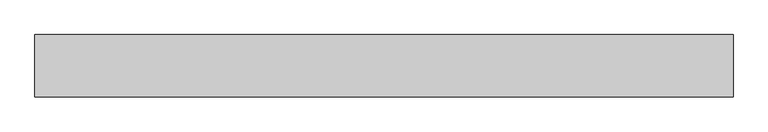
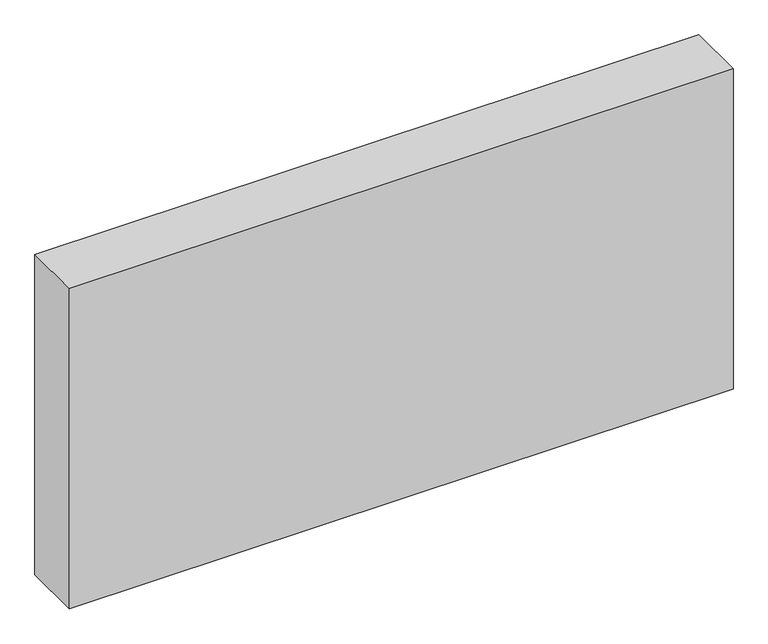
"""IFC4 building model written with IfcOpenShell, lengths in millimetres: plate geometry, Пустая системная панель : Пустая системная панель."""

from ifc_helpers import new_model, si_unit, origin, origin_with_axes, place, context, project, spatial, polyline, outline, extrude, source, transform, mapped, element, save


def plate_7149e2ae(model_context):
    return source(origin(), model_context, "Body", "SweptSolid", [
        extrude(outline(polyline([(558.75, -50.0), (-558.75, -50.0), (-558.75, 50.0), (558.75, 50.0), (558.75, -50.0)])), origin_with_axes(), (0.0, 0.0, 1.0), 570.0),
    ])


if __name__ == "__main__":
    model = new_model("IFC4")
    model_context = context("Model", 3, world=origin())
    ifc_project = project(units=[si_unit("LENGTHUNIT", "METRE", prefix="MILLI")], contexts=[model_context])
    site = spatial("IfcSite", under=ifc_project)
    building = spatial("IfcBuilding", under=site)
    placement = place(None, origin())
    plate_shape = plate_7149e2ae(model_context)
    element("IfcPlate", 1, ObjectType="Пустая системная панель : Пустая системная панель", at=placement, inside=building, context=model_context, shape_type="MappedRepresentation", body=[
        mapped(plate_shape, transform((0.0, 0.0, 0.0), x_axis=(1.0, 0.0, 0.0), y_axis=(0.0, 1.0, 0.0), z_axis=(0.0, 0.0, 1.0))),
    ])
    save(model, "model.ifc")
